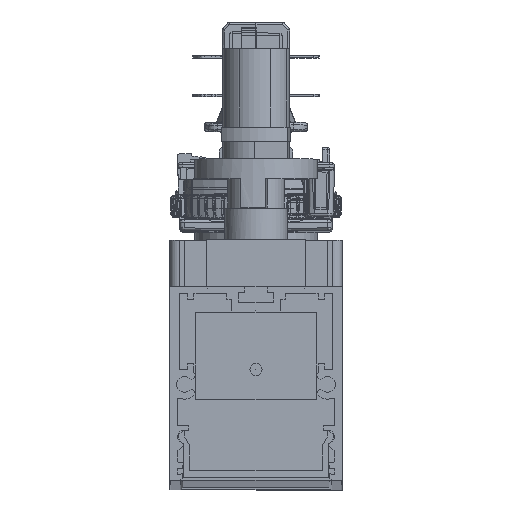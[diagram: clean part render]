
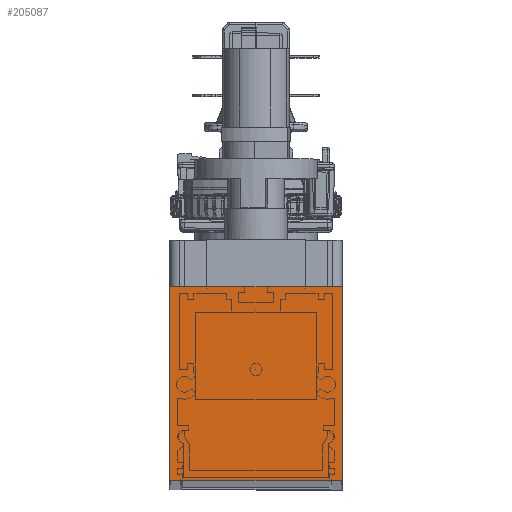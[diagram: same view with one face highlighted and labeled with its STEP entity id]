
A CAD part, top view. The second image highlights one B-rep face of the part: STEP entity #205087.
In plain terms, the highlighted planar face has unit normal (0, 0, 1).
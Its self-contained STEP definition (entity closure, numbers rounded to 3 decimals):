
#16911=FACE_OUTER_BOUND('',#27726,.T.);
#27726=EDGE_LOOP('',(#128311,#128312,#128313,#128314));
#38778=LINE('',#283279,#57954);
#39195=LINE('',#284538,#58371);
#39197=LINE('',#284542,#58373);
#39198=LINE('',#284544,#58374);
#57954=VECTOR('',#231947,1000.);
#58371=VECTOR('',#233044,1000.);
#58373=VECTOR('',#233048,1000.);
#58374=VECTOR('',#233051,1000.);
#77112=VERTEX_POINT('',#283276);
#77113=VERTEX_POINT('',#283278);
#77579=VERTEX_POINT('',#284536);
#77580=VERTEX_POINT('',#284540);
#96784=EDGE_CURVE('',#77112,#77113,#38778,.T.);
#97394=EDGE_CURVE('',#77112,#77579,#39195,.T.);
#97396=EDGE_CURVE('',#77579,#77580,#39197,.T.);
#97397=EDGE_CURVE('',#77113,#77580,#39198,.T.);
#128311=ORIENTED_EDGE('',*,*,#97394,.T.);
#128312=ORIENTED_EDGE('',*,*,#97396,.T.);
#128313=ORIENTED_EDGE('',*,*,#97397,.F.);
#128314=ORIENTED_EDGE('',*,*,#96784,.F.);
#188407=PLANE('',#216106);
#205087=ADVANCED_FACE('',(#16911),#188407,.T.);
#216106=AXIS2_PLACEMENT_3D('',#284545,#233052,#233053);
#231947=DIRECTION('',(1.,0.,0.));
#233044=DIRECTION('',(0.,-1.,0.));
#233048=DIRECTION('',(1.,0.,0.));
#233051=DIRECTION('',(0.,-1.,0.));
#233052=DIRECTION('center_axis',(0.,0.,1.));
#233053=DIRECTION('ref_axis',(1.,0.,0.));
#283276=CARTESIAN_POINT('',(-17.6,39.5,571.));
#283278=CARTESIAN_POINT('',(17.6,39.5,571.));
#283279=CARTESIAN_POINT('',(-17.6,39.5,571.));
#284536=CARTESIAN_POINT('',(-17.6,0.,571.));
#284538=CARTESIAN_POINT('',(-17.6,39.5,571.));
#284540=CARTESIAN_POINT('',(17.6,0.,571.));
#284542=CARTESIAN_POINT('',(-17.6,0.,571.));
#284544=CARTESIAN_POINT('',(17.6,39.5,571.));
#284545=CARTESIAN_POINT('Origin',(11.,18.749,571.));
